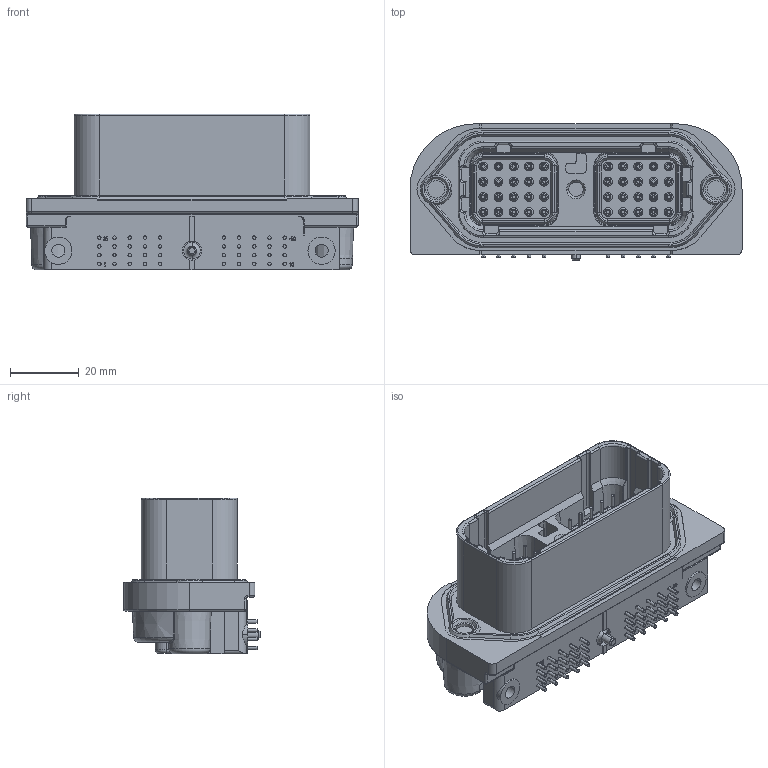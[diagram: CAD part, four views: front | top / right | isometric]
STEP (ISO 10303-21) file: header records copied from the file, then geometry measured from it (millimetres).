
FILE_DESCRIPTION((''),'2;1');
FILE_NAME('C-DRC23-40PD','2013-06-14T',('workeradm'),('Tyco Electronics Ltd.'),'PRO/ENGINEER BY PARAMETRIC TECHNOLOGY CORPORATION, 2011490','PRO/ENGINEER BY PARAMETRIC TECHNOLOGY CORPORATION, 2011490','');
FILE_SCHEMA(('AUTOMOTIVE_DESIGN { 1 0 10303 214 1 1 1 1 }'));
Length unit declared in the file: millimetre
Products named in the file (1): C-DRC23-40PD
Bounding box: 96.52 x 39.62 x 45.34 mm (x, y, z)
Volume: 73304.3 mm3; surface area: 27015.8 mm2
Topology: 1 solids, 1 shells, 1124 faces, 2761 edges, 1773 vertices
Faces by surface type: plane 513, cylinder 400, cone 136, torus 62, bspline 11, sphere 2
Entity records: 42808 total; most frequent: CARTESIAN_POINT 6744, DIRECTION 5937, ORIENTED_EDGE 5522, PRESENTATION_STYLE_ASSIGNMENT 2762, STYLED_ITEM 2762, CURVE_STYLE 2761, EDGE_CURVE 2761, AXIS2_PLACEMENT_3D 2182
